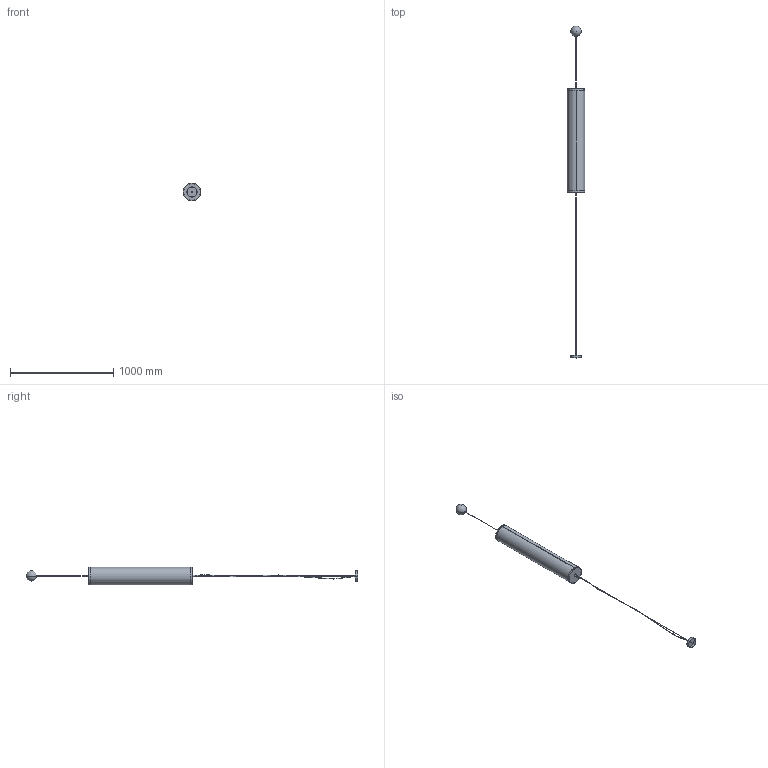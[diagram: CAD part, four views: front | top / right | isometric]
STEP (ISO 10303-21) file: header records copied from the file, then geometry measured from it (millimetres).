
FILE_DESCRIPTION (( 'STEP AP214' ), '1' );
FILE_NAME ('C1276_L_V.STEP', '2023-07-20T11:01:35', ( '' ), ( '' ), 'SwSTEP 2.0', 'SolidWorks 2018', '' );
FILE_SCHEMA (( 'AUTOMOTIVE_DESIGN' ));
Length unit declared in the file: millimetre
Products named in the file (1): C1276_L_V
Bounding box: 170 x 3208 x 170 mm (x, y, z)
Volume: 2181328.3 mm3; surface area: 1386644.8 mm2
Topology: 15 solids, 15 shells, 110 faces, 216 edges, 139 vertices
Faces by surface type: cylinder 59, plane 41, torus 8, sphere 2
Entity records: 3007 total; most frequent: DIRECTION 561, CARTESIAN_POINT 458, ORIENTED_EDGE 422, AXIS2_PLACEMENT_3D 239, EDGE_CURVE 211, VERTEX_POINT 136, CIRCLE 128, EDGE_LOOP 123
